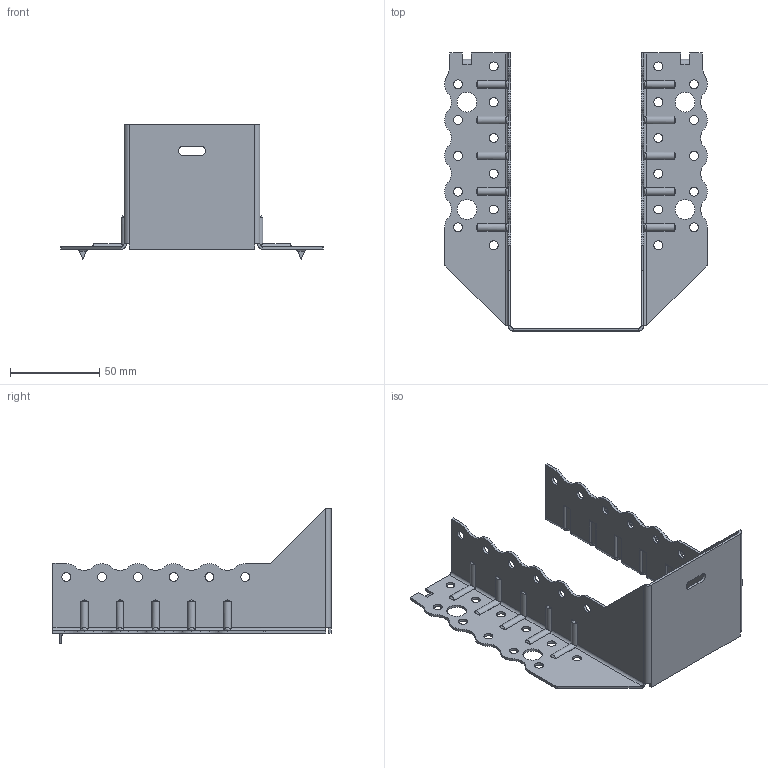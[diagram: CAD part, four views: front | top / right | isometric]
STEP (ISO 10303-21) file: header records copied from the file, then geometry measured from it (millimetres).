
FILE_DESCRIPTION (( 'STEP AP203' ), '1' );
FILE_NAME ('30618TOP.STEP', '2021-04-07T12:47:42', ( '' ), ( '' ), 'SwSTEP 2.0', 'SolidWorks 2013', '' );
FILE_SCHEMA (( 'CONFIG_CONTROL_DESIGN' ));
Length unit declared in the file: millimetre
Products named in the file (1): 30618TOP
Bounding box: 147 x 155.5 x 76 mm (x, y, z)
Volume: 38703 mm3; surface area: 55041.2 mm2
Topology: 1 solids, 1 shells, 428 faces, 1154 edges, 728 vertices
Faces by surface type: cylinder 269, plane 119, torus 20, bspline 20
Entity records: 15880 total; most frequent: CARTESIAN_POINT 5007, ORIENTED_EDGE 2308, DIRECTION 2228, EDGE_CURVE 1154, AXIS2_PLACEMENT_3D 813, VERTEX_POINT 728, VECTOR 602, LINE 602
